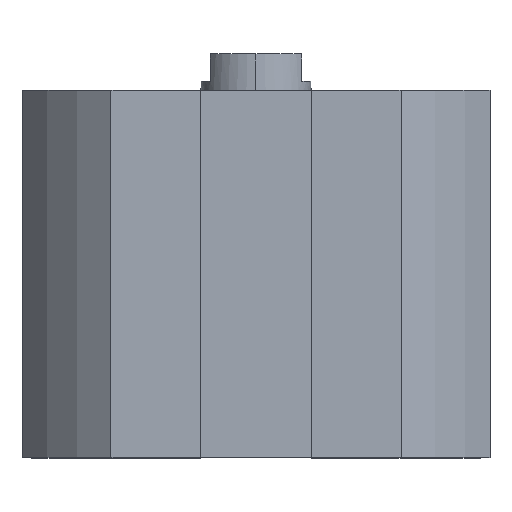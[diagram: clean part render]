
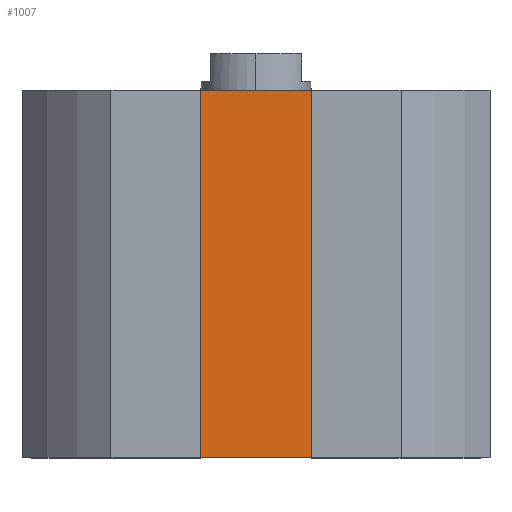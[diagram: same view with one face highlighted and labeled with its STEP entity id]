
A CAD part, top view. The second image highlights one B-rep face of the part: STEP entity #1007.
In plain terms, the highlighted planar face has unit normal (0, 0, 1).
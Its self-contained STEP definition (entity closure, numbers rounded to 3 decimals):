
#528 = LINE ( 'NONE', #1293, #2532 ) ;
#693 = VECTOR ( 'NONE', #1034, 1000. ) ;
#805 = LINE ( 'NONE', #2371, #1725 ) ;
#827 = AXIS2_PLACEMENT_3D ( 'NONE', #2388, #1081, #1303 ) ;
#851 = PLANE ( 'NONE',  #827 ) ;
#866 = DIRECTION ( 'NONE',  ( 0., 1., 0. ) ) ;
#901 = CARTESIAN_POINT ( 'NONE',  ( 7.7, -40., 17. ) ) ;
#1007 = ADVANCED_FACE ( 'NONE', ( #2114 ), #851, .T. ) ;
#1010 = EDGE_CURVE ( 'NONE', #1629, #1190, #528, .T. ) ;
#1034 = DIRECTION ( 'NONE',  ( 1., 0., 0. ) ) ;
#1036 = DIRECTION ( 'NONE',  ( 0., 1., 0. ) ) ;
#1056 = CARTESIAN_POINT ( 'NONE',  ( 7.7, 0., 17. ) ) ;
#1081 = DIRECTION ( 'NONE',  ( 0., 0., 1. ) ) ;
#1107 = CARTESIAN_POINT ( 'NONE',  ( -7.7, -40., 17. ) ) ;
#1190 = VERTEX_POINT ( 'NONE', #1656 ) ;
#1293 = CARTESIAN_POINT ( 'NONE',  ( -7.7, -40., 17. ) ) ;
#1296 = EDGE_CURVE ( 'NONE', #1629, #2726, #1871, .T. ) ;
#1303 = DIRECTION ( 'NONE',  ( 1., 0., 0. ) ) ;
#1307 = DIRECTION ( 'NONE',  ( 1., 0., 0. ) ) ;
#1455 = ORIENTED_EDGE ( 'NONE', *, *, #1010, .F. ) ;
#1488 = ORIENTED_EDGE ( 'NONE', *, *, #1296, .T. ) ;
#1499 = VECTOR ( 'NONE', #1036, 1000. ) ;
#1558 = ORIENTED_EDGE ( 'NONE', *, *, #2233, .T. ) ;
#1629 = VERTEX_POINT ( 'NONE', #1107 ) ;
#1656 = CARTESIAN_POINT ( 'NONE',  ( -7.7, 0., 17. ) ) ;
#1725 = VECTOR ( 'NONE', #1307, 1000. ) ;
#1871 = LINE ( 'NONE', #2540, #693 ) ;
#2016 = EDGE_LOOP ( 'NONE', ( #2097, #1455, #1488, #1558 ) ) ;
#2068 = LINE ( 'NONE', #2313, #1499 ) ;
#2082 = EDGE_CURVE ( 'NONE', #1190, #2199, #805, .T. ) ;
#2097 = ORIENTED_EDGE ( 'NONE', *, *, #2082, .F. ) ;
#2114 = FACE_OUTER_BOUND ( 'NONE', #2016, .T. ) ;
#2199 = VERTEX_POINT ( 'NONE', #1056 ) ;
#2233 = EDGE_CURVE ( 'NONE', #2726, #2199, #2068, .T. ) ;
#2313 = CARTESIAN_POINT ( 'NONE',  ( 7.7, -40., 17. ) ) ;
#2371 = CARTESIAN_POINT ( 'NONE',  ( 0., 0., 17. ) ) ;
#2388 = CARTESIAN_POINT ( 'NONE',  ( 0., -40., 17. ) ) ;
#2532 = VECTOR ( 'NONE', #866, 1000. ) ;
#2540 = CARTESIAN_POINT ( 'NONE',  ( 0., -40., 17. ) ) ;
#2726 = VERTEX_POINT ( 'NONE', #901 ) ;
